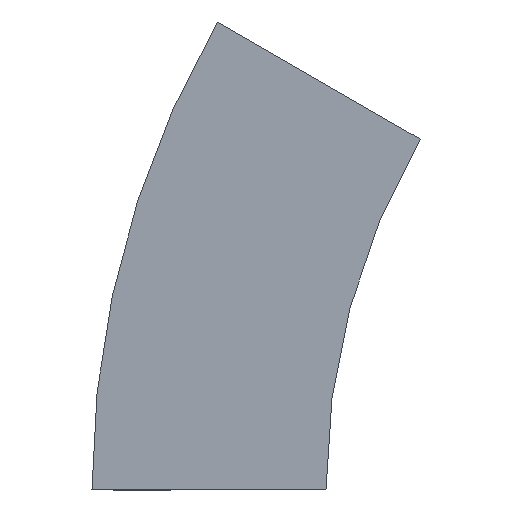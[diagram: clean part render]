
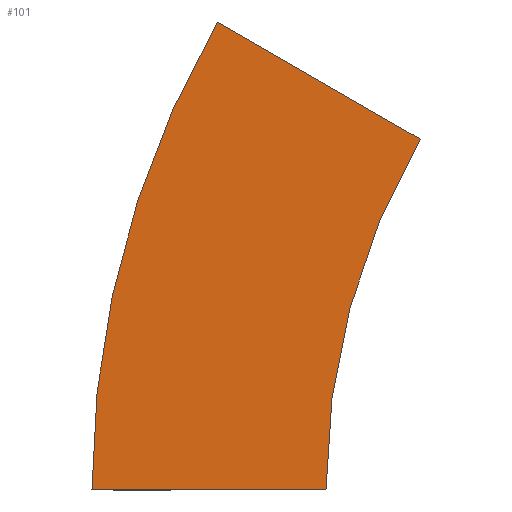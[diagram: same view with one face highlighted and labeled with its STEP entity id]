
A CAD part, left-side view. The second image highlights one B-rep face of the part: STEP entity #101.
In plain terms, the highlighted planar face has unit normal (-1, 0, 0) as drawn and (1, 0, 0) by its records, which use the part's own axes.
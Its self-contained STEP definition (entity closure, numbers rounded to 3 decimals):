
#14 = CARTESIAN_POINT ( 'NONE',  ( 0., 0., 0. ) ) ;
#17 = EDGE_LOOP ( 'NONE', ( #493, #110, #542, #259 ) ) ;
#40 = VERTEX_POINT ( 'NONE', #294 ) ;
#44 = CARTESIAN_POINT ( 'NONE',  ( 0., -300., 0. ) ) ;
#53 = CARTESIAN_POINT ( 'NONE',  ( 0., 100., 0. ) ) ;
#58 = DIRECTION ( 'NONE',  ( 0., 0.866, 0.5 ) ) ;
#81 = VECTOR ( 'NONE', #58, 1000. ) ;
#86 = EDGE_CURVE ( 'NONE', #415, #40, #528, .T. ) ;
#99 = CARTESIAN_POINT ( 'NONE',  ( 0., -40.192, 150. ) ) ;
#101 = ADVANCED_FACE ( 'NONE', ( #105 ), #431, .T. ) ;
#104 = LINE ( 'NONE', #396, #81 ) ;
#105 = FACE_OUTER_BOUND ( 'NONE', #17, .T. ) ;
#110 = ORIENTED_EDGE ( 'NONE', *, *, #400, .F. ) ;
#115 = AXIS2_PLACEMENT_3D ( 'NONE', #535, #411, #368 ) ;
#137 = AXIS2_PLACEMENT_3D ( 'NONE', #305, #226, #520 ) ;
#150 = VERTEX_POINT ( 'NONE', #365 ) ;
#175 = DIRECTION ( 'NONE',  ( 0., 1., 0. ) ) ;
#226 = DIRECTION ( 'NONE',  ( 1., 0., 0. ) ) ;
#235 = EDGE_CURVE ( 'NONE', #150, #469, #297, .T. ) ;
#259 = ORIENTED_EDGE ( 'NONE', *, *, #281, .T. ) ;
#281 = EDGE_CURVE ( 'NONE', #150, #415, #451, .T. ) ;
#285 = AXIS2_PLACEMENT_3D ( 'NONE', #44, #388, #175 ) ;
#294 = CARTESIAN_POINT ( 'NONE',  ( 0., 46.41, 200. ) ) ;
#297 = CIRCLE ( 'NONE', #115, 300. ) ;
#305 = CARTESIAN_POINT ( 'NONE',  ( 0., 0., 0. ) ) ;
#365 = CARTESIAN_POINT ( 'NONE',  ( 0., 0., 0. ) ) ;
#368 = DIRECTION ( 'NONE',  ( 0., 1., 0. ) ) ;
#388 = DIRECTION ( 'NONE',  ( 1., 0., 0. ) ) ;
#396 = CARTESIAN_POINT ( 'NONE',  ( 0., -40.192, 150. ) ) ;
#400 = EDGE_CURVE ( 'NONE', #469, #40, #104, .T. ) ;
#411 = DIRECTION ( 'NONE',  ( 1., 0., 0. ) ) ;
#415 = VERTEX_POINT ( 'NONE', #53 ) ;
#431 = PLANE ( 'NONE',  #137 ) ;
#451 = LINE ( 'NONE', #14, #495 ) ;
#469 = VERTEX_POINT ( 'NONE', #99 ) ;
#493 = ORIENTED_EDGE ( 'NONE', *, *, #86, .T. ) ;
#495 = VECTOR ( 'NONE', #536, 1000. ) ;
#520 = DIRECTION ( 'NONE',  ( 0., 0., -1. ) ) ;
#528 = CIRCLE ( 'NONE', #285, 400. ) ;
#535 = CARTESIAN_POINT ( 'NONE',  ( 0., -300., 0. ) ) ;
#536 = DIRECTION ( 'NONE',  ( 0., 1., 0. ) ) ;
#542 = ORIENTED_EDGE ( 'NONE', *, *, #235, .F. ) ;
